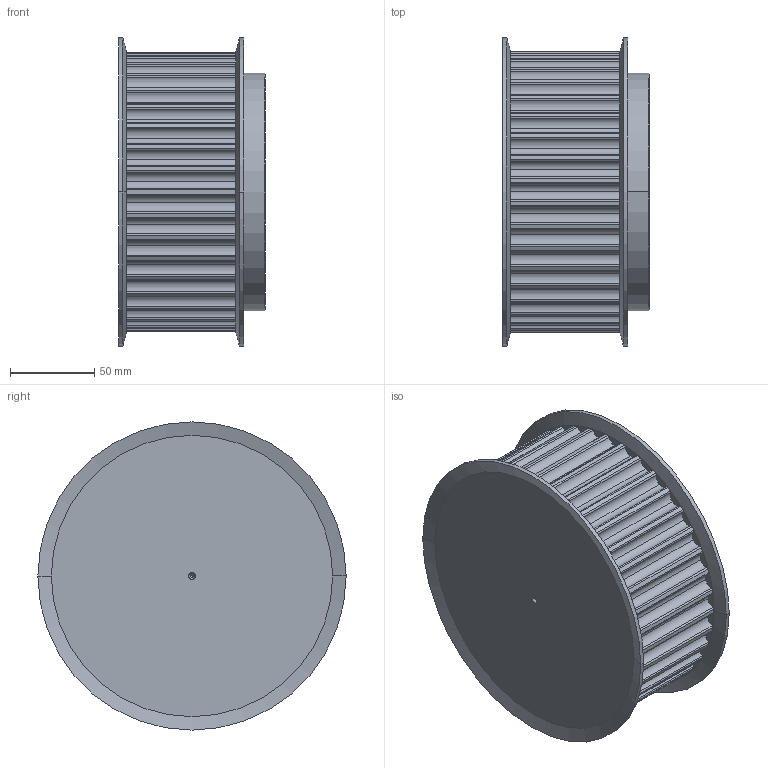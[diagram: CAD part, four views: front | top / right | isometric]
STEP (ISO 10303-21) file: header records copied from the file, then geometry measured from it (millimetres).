
FILE_DESCRIPTION(('STEP AP203'),'1');
FILE_NAME('38_-_14_m_55.stp','2021-07-01T21:21:08',('TraceParts'),('TraceParts S.A.'),'Spatial InterOp 3D',' ',' ');
FILE_SCHEMA(('CONFIG_CONTROL_DESIGN'));
Length unit declared in the file: millimetre
Products named in the file (1): 1
Bounding box: 87.14 x 183 x 183 mm (x, y, z)
Volume: 1695503 mm3; surface area: 118769.4 mm2
Topology: 1 solids, 1 shells, 223 faces, 638 edges, 418 vertices
Faces by surface type: cylinder 200, cone 18, plane 5
Entity records: 7536 total; most frequent: DIRECTION 1498, CARTESIAN_POINT 1276, ORIENTED_EDGE 1268, AXIS2_PLACEMENT_3D 640, EDGE_CURVE 634, VERTEX_POINT 418, CIRCLE 416, EDGE_LOOP 228
